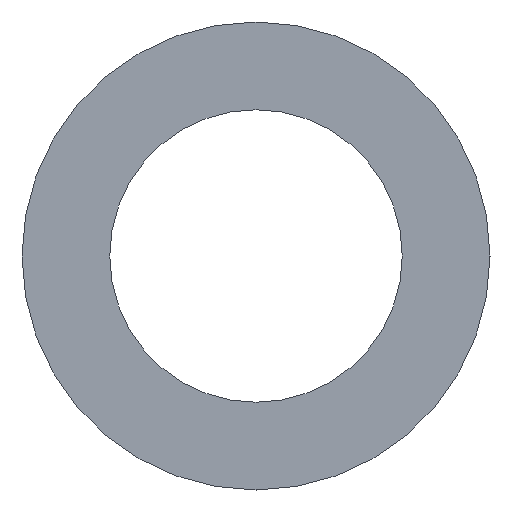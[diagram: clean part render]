
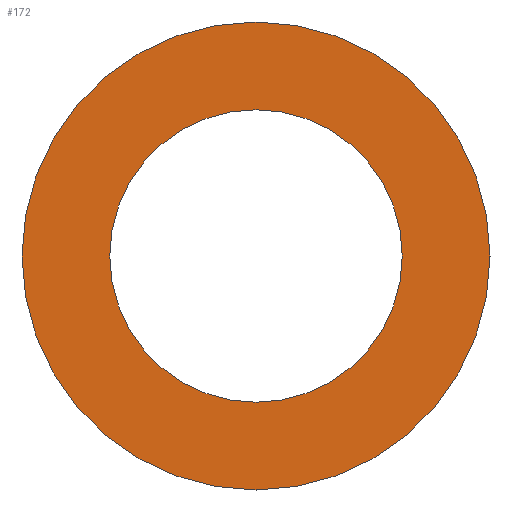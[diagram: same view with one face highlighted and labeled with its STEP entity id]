
A CAD part, front view. The second image highlights one B-rep face of the part: STEP entity #172.
In plain terms, the highlighted planar face has unit normal (0, -1, 0).
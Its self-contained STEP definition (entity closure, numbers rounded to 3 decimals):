
#13 = ORIENTED_EDGE ( 'NONE', *, *, #1011, .F. ) ;
#95 = DIRECTION ( 'NONE',  ( 0., 0., -1. ) ) ;
#167 = CARTESIAN_POINT ( 'NONE',  ( 0., -19., -25. ) ) ;
#172 = ADVANCED_FACE ( 'NONE', ( #1588, #633 ), #1804, .F. ) ;
#270 = CARTESIAN_POINT ( 'NONE',  ( 0., -19., 25. ) ) ;
#454 = EDGE_LOOP ( 'NONE', ( #13, #1270 ) ) ;
#487 = CIRCLE ( 'NONE', #3020, 40. ) ;
#567 = DIRECTION ( 'NONE',  ( 0., -1., 0. ) ) ;
#633 = FACE_OUTER_BOUND ( 'NONE', #3244, .T. ) ;
#797 = DIRECTION ( 'NONE',  ( 0., 0., 1. ) ) ;
#887 = CARTESIAN_POINT ( 'NONE',  ( 0., -19., -40. ) ) ;
#960 = ORIENTED_EDGE ( 'NONE', *, *, #1343, .T. ) ;
#1011 = EDGE_CURVE ( 'NONE', #2150, #1744, #1899, .T. ) ;
#1255 = EDGE_CURVE ( 'NONE', #1744, #2150, #2949, .T. ) ;
#1270 = ORIENTED_EDGE ( 'NONE', *, *, #1255, .F. ) ;
#1311 = CARTESIAN_POINT ( 'NONE',  ( 0., -19., 0. ) ) ;
#1343 = EDGE_CURVE ( 'NONE', #2799, #3250, #2080, .T. ) ;
#1394 = CARTESIAN_POINT ( 'NONE',  ( 0., -19., 0. ) ) ;
#1405 = DIRECTION ( 'NONE',  ( 0., 0., -1. ) ) ;
#1495 = EDGE_CURVE ( 'NONE', #3250, #2799, #487, .T. ) ;
#1588 = FACE_BOUND ( 'NONE', #454, .T. ) ;
#1744 = VERTEX_POINT ( 'NONE', #270 ) ;
#1774 = DIRECTION ( 'NONE',  ( 0., 1., 0. ) ) ;
#1804 = PLANE ( 'NONE',  #2941 ) ;
#1899 = CIRCLE ( 'NONE', #2517, 25. ) ;
#1923 = CARTESIAN_POINT ( 'NONE',  ( 0., -19., 0. ) ) ;
#2034 = AXIS2_PLACEMENT_3D ( 'NONE', #1923, #2682, #1405 ) ;
#2080 = CIRCLE ( 'NONE', #2034, 40. ) ;
#2150 = VERTEX_POINT ( 'NONE', #167 ) ;
#2187 = DIRECTION ( 'NONE',  ( 0., -1., 0. ) ) ;
#2441 = DIRECTION ( 'NONE',  ( 0., 0., -1. ) ) ;
#2517 = AXIS2_PLACEMENT_3D ( 'NONE', #3003, #2983, #3237 ) ;
#2548 = CARTESIAN_POINT ( 'NONE',  ( 0., -19., 25. ) ) ;
#2682 = DIRECTION ( 'NONE',  ( 0., -1., 0. ) ) ;
#2753 = AXIS2_PLACEMENT_3D ( 'NONE', #1311, #567, #95 ) ;
#2799 = VERTEX_POINT ( 'NONE', #2870 ) ;
#2870 = CARTESIAN_POINT ( 'NONE',  ( 0., -19., 40. ) ) ;
#2941 = AXIS2_PLACEMENT_3D ( 'NONE', #2548, #1774, #797 ) ;
#2949 = CIRCLE ( 'NONE', #2753, 25. ) ;
#2983 = DIRECTION ( 'NONE',  ( 0., -1., 0. ) ) ;
#3003 = CARTESIAN_POINT ( 'NONE',  ( 0., -19., 0. ) ) ;
#3020 = AXIS2_PLACEMENT_3D ( 'NONE', #1394, #2187, #2441 ) ;
#3206 = ORIENTED_EDGE ( 'NONE', *, *, #1495, .T. ) ;
#3237 = DIRECTION ( 'NONE',  ( 0., 0., -1. ) ) ;
#3244 = EDGE_LOOP ( 'NONE', ( #3206, #960 ) ) ;
#3250 = VERTEX_POINT ( 'NONE', #887 ) ;
